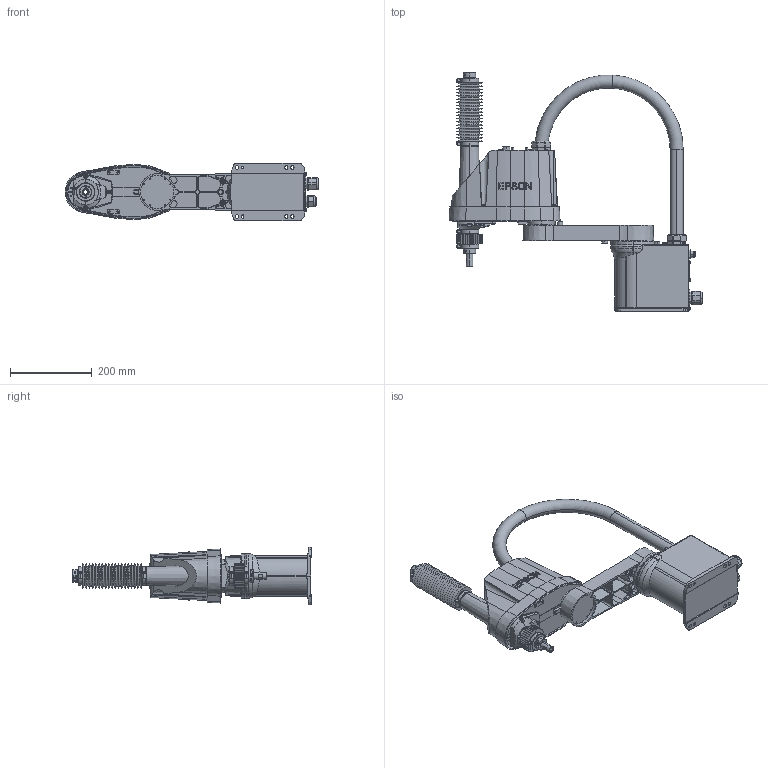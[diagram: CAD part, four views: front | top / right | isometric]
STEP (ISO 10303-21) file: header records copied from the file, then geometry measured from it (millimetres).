
FILE_DESCRIPTION (( 'STEP AP214' ), '1' );
FILE_NAME ('LA3-x401C.STEP', '2026-08-03T17:55:00', ( '' ), ( '' ), 'SwSTEP 2.0', 'SolidWorks 2020', '' );
FILE_SCHEMA (( 'AUTOMOTIVE_DESIGN' ));
Length unit declared in the file: millimetre
Products named in the file (6): LA3-A-C_BASE; LA3-A_J2_ARM; LA3-A-C_Z_AXIS; LA3-A_CONDUIT; LA3-A_J1_ARM; LA3-x401C
Assembly tree (5 placements, depth 2):
  LA3-x401C
    LA3-A-C_BASE
    LA3-A_J1_ARM
    LA3-A_J2_ARM
    LA3-A-C_Z_AXIS
    LA3-A_CONDUIT
Bounding box: 620 x 584 x 140 mm (x, y, z)
Volume: 8245351.8 mm3; surface area: 813016.6 mm2
Topology: 4 solids, 5 shells, 2597 faces, 6662 edges, 4243 vertices
Faces by surface type: plane 1350, cone 647, cylinder 505, torus 73, sphere 22
Entity records: 102199 total; most frequent: CARTESIAN_POINT 31981, ORIENTED_EDGE 13232, DIRECTION 12284, EDGE_CURVE 6616, AXIS2_PLACEMENT_3D 4439, VERTEX_POINT 4243, LINE 3406, VECTOR 3406
